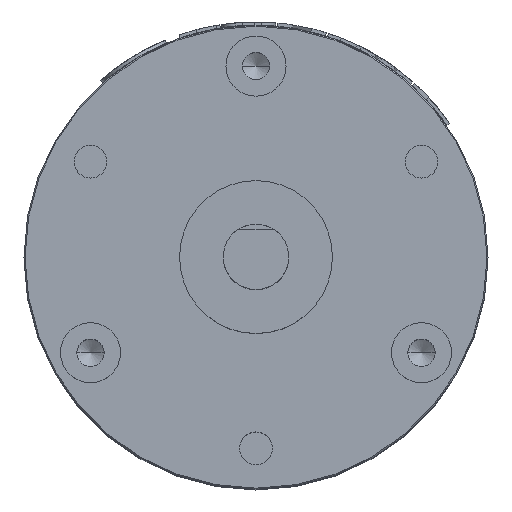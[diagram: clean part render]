
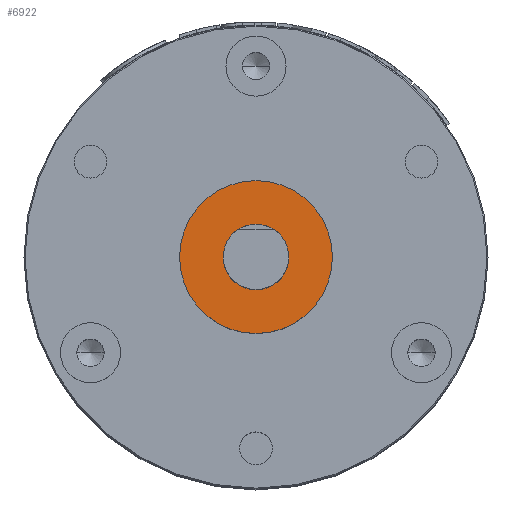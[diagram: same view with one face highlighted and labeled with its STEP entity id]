
A CAD part, top view. The second image highlights one B-rep face of the part: STEP entity #6922.
In plain terms, the highlighted planar face has unit normal (0, 0, 1).
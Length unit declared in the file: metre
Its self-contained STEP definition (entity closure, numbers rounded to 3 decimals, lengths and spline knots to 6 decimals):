
#1034 = ORIENTED_EDGE ( 'NONE', *, *, #9074, .T. ) ;
#1035 = AXIS2_PLACEMENT_3D ( 'NONE', #11385, #2301, #12854 ) ;
#1090 = CIRCLE ( 'NONE', #1035, 0.007 ) ;
#1245 = FACE_OUTER_BOUND ( 'NONE', #15604, .T. ) ;
#1600 = CARTESIAN_POINT ( 'NONE',  ( 0.003, 0., 0.005 ) ) ;
#1712 = VERTEX_POINT ( 'NONE', #11332 ) ;
#2301 = DIRECTION ( 'NONE',  ( 0., 0., 1. ) ) ;
#4188 = AXIS2_PLACEMENT_3D ( 'NONE', #11853, #11981, #12478 ) ;
#4280 = CARTESIAN_POINT ( 'NONE',  ( 0., 0., 0.005 ) ) ;
#4350 = DIRECTION ( 'NONE',  ( 1., 0., 0. ) ) ;
#4396 = DIRECTION ( 'NONE',  ( 0., 0., -1. ) ) ;
#5297 = FACE_BOUND ( 'NONE', #15679, .T. ) ;
#5620 = VERTEX_POINT ( 'NONE', #14951 ) ;
#5705 = DIRECTION ( 'NONE',  ( 0., 1., 0. ) ) ;
#5739 = DIRECTION ( 'NONE',  ( 0., 0., 1. ) ) ;
#5766 = CARTESIAN_POINT ( 'NONE',  ( 0., 0., 0.005 ) ) ;
#6922 = ADVANCED_FACE ( 'NONE', ( #5297, #1245 ), #11097, .T. ) ;
#6968 = CIRCLE ( 'NONE', #7914, 0.007 ) ;
#7786 = EDGE_CURVE ( 'NONE', #13060, #14631, #18466, .T. ) ;
#7914 = AXIS2_PLACEMENT_3D ( 'NONE', #5766, #5739, #5705 ) ;
#9074 = EDGE_CURVE ( 'NONE', #14631, #13060, #13689, .T. ) ;
#9333 = EDGE_CURVE ( 'NONE', #5620, #1712, #6968, .T. ) ;
#11097 = PLANE ( 'NONE',  #11867 ) ;
#11332 = CARTESIAN_POINT ( 'NONE',  ( 0., -0.007, 0.005 ) ) ;
#11385 = CARTESIAN_POINT ( 'NONE',  ( 0., 0., 0.005 ) ) ;
#11504 = CARTESIAN_POINT ( 'NONE',  ( -0.007084, -0.007084, 0.005 ) ) ;
#11563 = DIRECTION ( 'NONE',  ( 0., 0., 1. ) ) ;
#11587 = DIRECTION ( 'NONE',  ( 1., 0., 0. ) ) ;
#11853 = CARTESIAN_POINT ( 'NONE',  ( 0., 0., 0.005 ) ) ;
#11867 = AXIS2_PLACEMENT_3D ( 'NONE', #11504, #11563, #11587 ) ;
#11981 = DIRECTION ( 'NONE',  ( 0., 0., -1. ) ) ;
#12478 = DIRECTION ( 'NONE',  ( 1., 0., 0. ) ) ;
#12854 = DIRECTION ( 'NONE',  ( 0., 1., 0. ) ) ;
#13060 = VERTEX_POINT ( 'NONE', #1600 ) ;
#13689 = CIRCLE ( 'NONE', #4188, 0.003 ) ;
#13700 = EDGE_CURVE ( 'NONE', #1712, #5620, #1090, .T. ) ;
#14631 = VERTEX_POINT ( 'NONE', #17739 ) ;
#14951 = CARTESIAN_POINT ( 'NONE',  ( 0., 0.007, 0.005 ) ) ;
#14999 = AXIS2_PLACEMENT_3D ( 'NONE', #4280, #4396, #4350 ) ;
#15604 = EDGE_LOOP ( 'NONE', ( #18020, #16224 ) ) ;
#15679 = EDGE_LOOP ( 'NONE', ( #16131, #1034 ) ) ;
#16131 = ORIENTED_EDGE ( 'NONE', *, *, #7786, .T. ) ;
#16224 = ORIENTED_EDGE ( 'NONE', *, *, #13700, .T. ) ;
#17739 = CARTESIAN_POINT ( 'NONE',  ( -0.003, 0., 0.005 ) ) ;
#18020 = ORIENTED_EDGE ( 'NONE', *, *, #9333, .T. ) ;
#18466 = CIRCLE ( 'NONE', #14999, 0.003 ) ;
